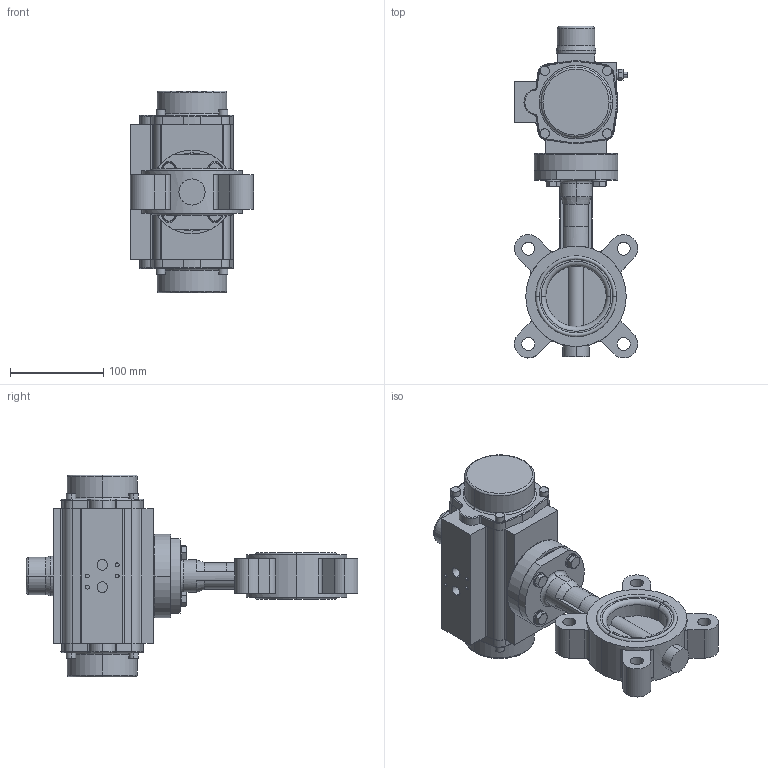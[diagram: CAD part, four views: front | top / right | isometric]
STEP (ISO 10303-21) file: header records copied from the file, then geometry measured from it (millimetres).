
FILE_DESCRIPTION (( 'STEP AP214' ), '1' );
FILE_NAME ('67346.step', '2020-10-23T12:38:06', ( '' ), ( '' ), 'SwSTEP 2.0', 'SolidWorks 2019', '' );
FILE_SCHEMA (( 'AUTOMOTIVE_DESIGN' ));
Length unit declared in the file: millimetre
Products named in the file (8): Flanschadapter F07-F05; 67346; 67335_15x15x2 - L=18; Achtkantreduktion 17-11 mm; 6kt-Schr DIN 933_M8x45; SR0080-V17_02; TL20-0065_M01; U-Scheibe DIN 125 A_M8
Assembly tree (13 placements, depth 2):
  67346
    TL20-0065_M01
    SR0080-V17_02
    U-Scheibe DIN 125 A_M8  x4
    6kt-Schr DIN 933_M8x45  x4
    Achtkantreduktion 17-11 mm
    Flanschadapter F07-F05
    67335_15x15x2 - L=18
Bounding box: 132.47 x 356.74 x 217 mm (x, y, z)
Volume: 2374787.9 mm3; surface area: 242962.6 mm2
Topology: 15 solids, 15 shells, 782 faces, 1950 edges, 1251 vertices
Faces by surface type: plane 354, cylinder 322, torus 50, cone 44, bspline 12
Entity records: 24306 total; most frequent: CARTESIAN_POINT 4588, DIRECTION 3875, ORIENTED_EDGE 3492, EDGE_CURVE 1746, AXIS2_PLACEMENT_3D 1498, VERTEX_POINT 1131, VECTOR 879, LINE 879
